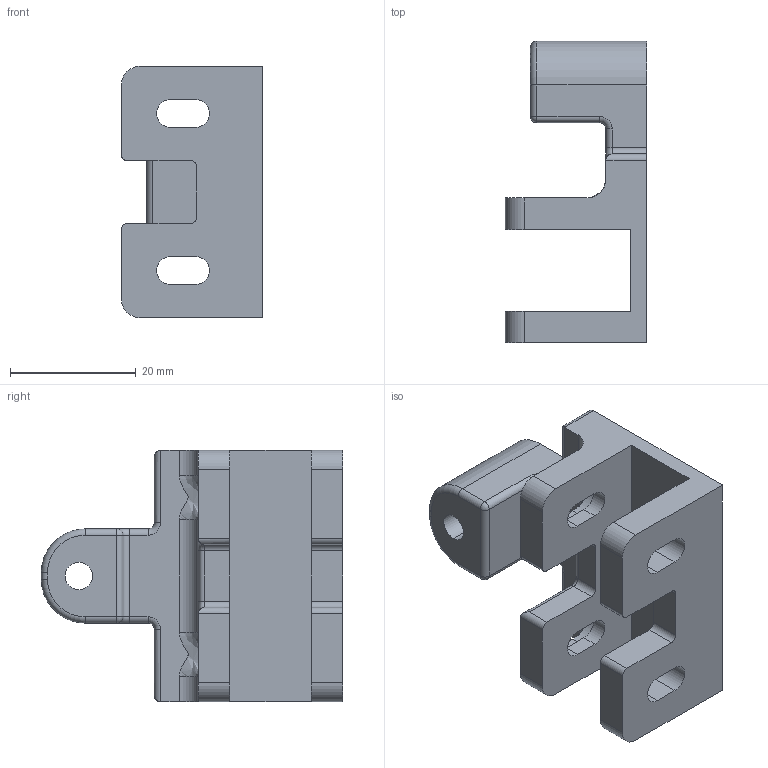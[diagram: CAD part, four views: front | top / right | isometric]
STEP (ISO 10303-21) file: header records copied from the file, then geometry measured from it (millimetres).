
FILE_DESCRIPTION (( 'STEP AP203' ), '1' );
FILE_NAME ('fix_masse.STEP', '2020-03-27T11:10:41', ( '' ), ( '' ), 'SwSTEP 2.0', 'SolidWorks 2020', '' );
FILE_SCHEMA (( 'CONFIG_CONTROL_DESIGN' ));
Length unit declared in the file: millimetre
Products named in the file (1): fix_masse
Bounding box: 22.5 x 48 x 40 mm (x, y, z)
Volume: 13486.9 mm3; surface area: 7730.6 mm2
Topology: 1 solids, 1 shells, 108 faces, 288 edges, 180 vertices
Faces by surface type: cylinder 55, plane 41, torus 8, bspline 2, sphere 2
Entity records: 3673 total; most frequent: CARTESIAN_POINT 827, DIRECTION 608, ORIENTED_EDGE 572, EDGE_CURVE 286, AXIS2_PLACEMENT_3D 221, VERTEX_POINT 180, VECTOR 166, LINE 166
